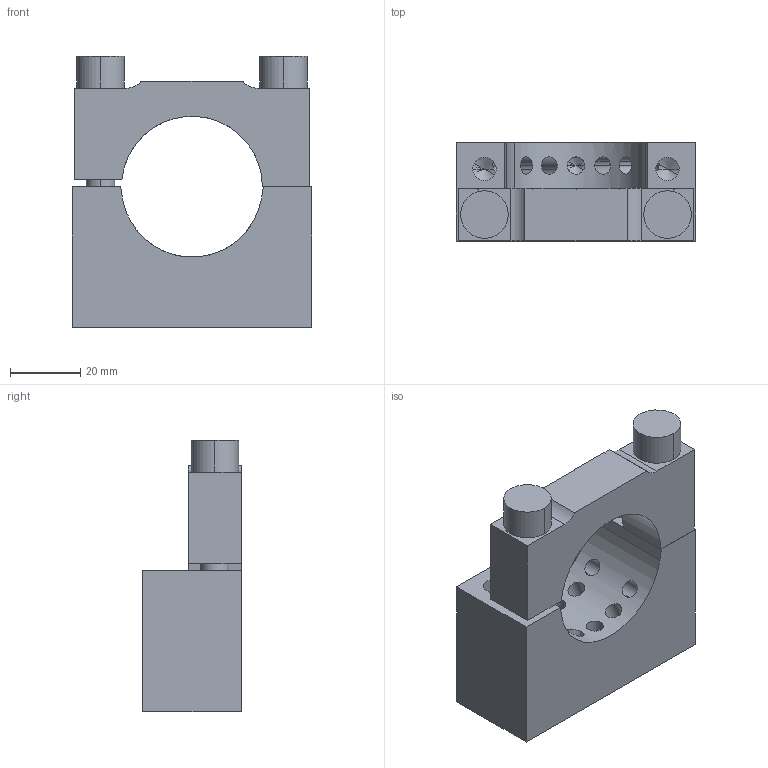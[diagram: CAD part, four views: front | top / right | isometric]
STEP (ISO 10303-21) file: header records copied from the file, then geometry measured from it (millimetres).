
FILE_DESCRIPTION(('STEP AP214'),'1');
FILE_NAME('EGT247_1720318_RD40_FL28.CATPart.stp','2015-09-14T13:15:29',('3D-Tool'),(' '),'Spatial InterOp 3D',' ',' ');
FILE_SCHEMA(('automotive_design'));
Length unit declared in the file: millimetre
Products named in the file (4): EGT247_1720318_RD40_FL28|EGT247_RD40_FL28|Bohrbearbeitung; EGT247_1720318_RD40_FL28|EGT206_SCHELLE_RD40_1|Assemble.116; 1; 2
Bounding box: 68 x 28 x 77 mm (x, y, z)
Volume: 74071.7 mm3; surface area: 25930.2 mm2
Topology: 4 solids, 4 shells, 256 faces, 702 edges, 394 vertices
Faces by surface type: cylinder 97, plane 87, cone 72
Entity records: 10526 total; most frequent: CARTESIAN_POINT 2426, ORIENTED_EDGE 1260, DIRECTION 1199, EDGE_CURVE 630, AXIS2_PLACEMENT_3D 431, VERTEX_POINT 394, LINE 337, VECTOR 337
